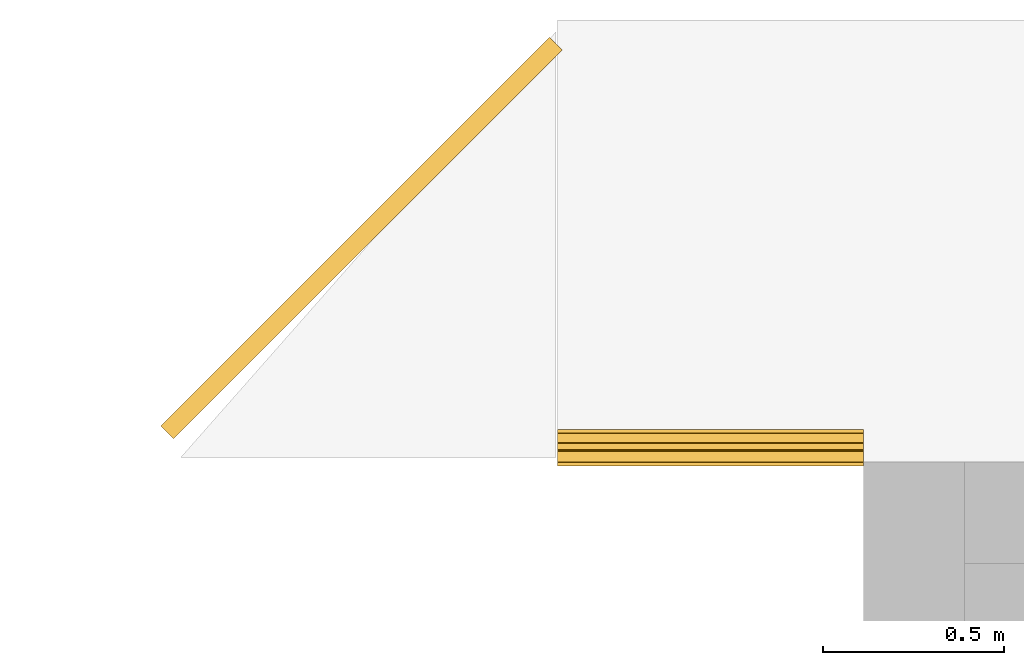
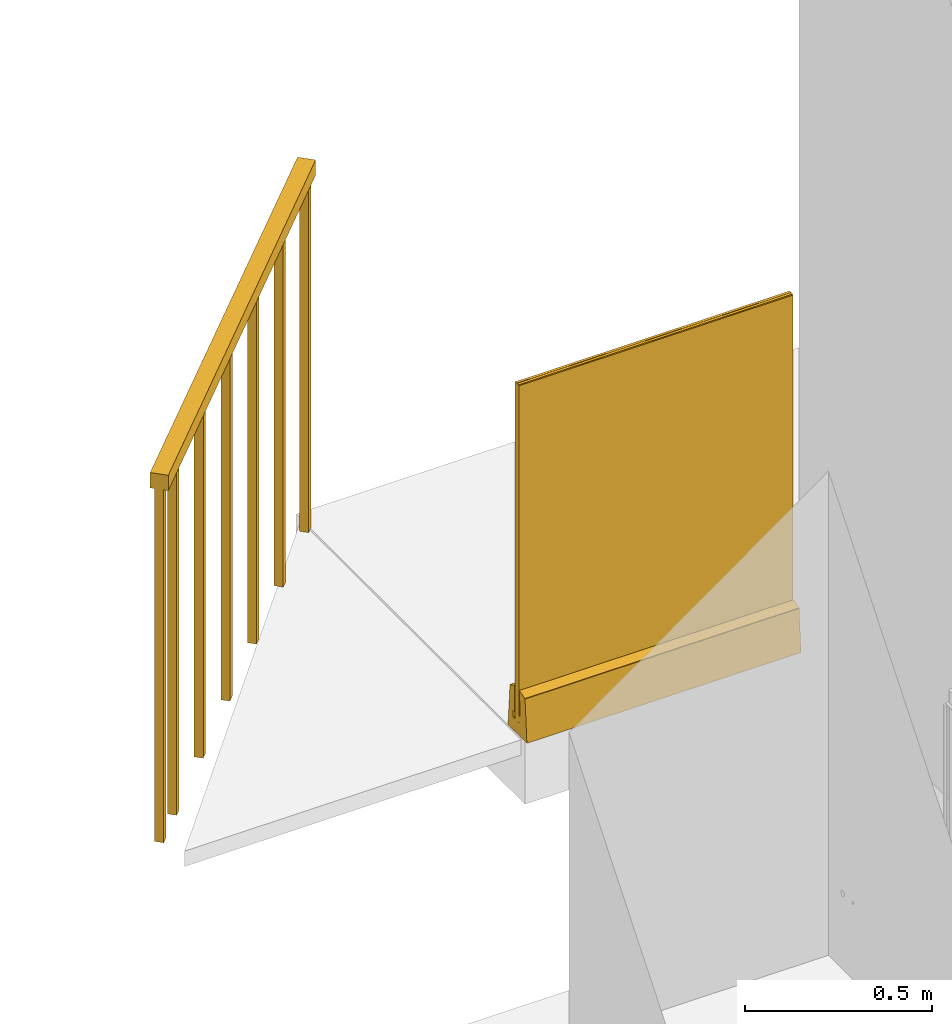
# One storey, part 5 of 22: 2 railings.
"""IFC2X3 building model written with IfcOpenShell, lengths in millimetres."""

import ifcopenshell
import ifcopenshell.guid

model = None  # the IFC model being written
_history = None  # IfcOwnerHistory: only IFC2X3 demands one
_inside = {}  # id of a spatial element -> (the spatial element, [elements in it])
_under = {}  # id of a project, library or spatial element -> (it, [spatial elements below it])
_declared = {}  # id of a project -> (the project, [libraries it declares])
_typed = {}  # id of a type object -> (the type object, [elements of that type])
_made_of = {}  # id of a material, layer set ... -> (it, [elements and type objects made of it])


def new_model(schema):
    """Start an empty IFC model of exactly this schema.

    Asked for "IFC4X3", IfcOpenShell would pick the latest addendum, in which some entities
    have other attributes; the version numbers below select the first issue.
    IFC2X3 requires an IfcOwnerHistory on every rooted entity: one is made here for all.
    """
    global model, _history
    if schema == "IFC4X3":
        model = ifcopenshell.file(schema_version=(4, 3, 0, 0))
    else:
        model = ifcopenshell.file(schema=schema)
    _inside.clear()
    _under.clear()
    _declared.clear()
    _typed.clear()
    _made_of.clear()
    _history = None
    if model.schema == "IFC2X3":
        org = make("IfcOrganization", Name="unknown")
        user = make(
            "IfcPersonAndOrganization",
            ThePerson=make("IfcPerson", FamilyName="unknown"),
            TheOrganization=org,
        )
        app = make(
            "IfcApplication",
            ApplicationDeveloper=org,
            Version="unknown",
            ApplicationFullName="unknown",
            ApplicationIdentifier="unknown",
        )
        _history = make(
            "IfcOwnerHistory",
            OwningUser=user,
            OwningApplication=app,
            ChangeAction="ADDED",
            CreationDate=0,
        )
    return model


def make(cls, **values):
    """One entity of the class cls with the attributes given. An attribute that is None is left unset."""
    return model.create_entity(
        cls, **{name: value for name, value in values.items() if value is not None}
    )


def entity(cls, *values):
    """Any entity or typed value of the class cls, its attributes in the order of the schema. None: left unset."""
    e = model.create_entity(cls)
    for i, value in enumerate(values):
        if value is not None:
            e[i] = value
    return e


def rooted(cls, **values):
    """An entity with a GlobalId (a new one), such as an element, a storey or a relation."""
    return make(cls, GlobalId=ifcopenshell.guid.new(), OwnerHistory=_history, **values)


def si_unit(unit_type, name, prefix=None):
    """IfcSIUnit, for example si_unit("LENGTHUNIT", "METRE", prefix="MILLI")."""
    return make("IfcSIUnit", UnitType=unit_type, Prefix=prefix, Name=name)


def converted_unit(unit_type, name, factor, base, dimensions=None, offset=None):
    """IfcConversionBasedUnit, such as the inch: factor (a typed value) times the base unit."""
    return make(
        "IfcConversionBasedUnit"
        if offset is None
        else "IfcConversionBasedUnitWithOffset",
        ConversionOffset=offset,
        Dimensions=None
        if dimensions is None
        else entity("IfcDimensionalExponents", *dimensions),
        UnitType=unit_type,
        Name=name,
        ConversionFactor=make(
            "IfcMeasureWithUnit", ValueComponent=factor, UnitComponent=base
        ),
    )


def derived_unit(unit_type, elements):
    """IfcDerivedUnit: a product of units, each with its exponent."""
    return make(
        "IfcDerivedUnit",
        Elements=[
            make("IfcDerivedUnitElement", Unit=unit, Exponent=power)
            for unit, power in elements
        ],
        UnitType=unit_type,
    )


def assignment(units):
    """IfcUnitAssignment: the units of a project."""
    return None if units is None else make("IfcUnitAssignment", Units=units)


def point(xyz):
    """IfcCartesianPoint."""
    return None if xyz is None else make("IfcCartesianPoint", Coordinates=xyz)


def direction(xyz):
    """IfcDirection."""
    return None if xyz is None else make("IfcDirection", DirectionRatios=xyz)


def frame(location, z_axis=None, x_axis=None):
    """IfcAxis2Placement3D, a coordinate frame: its origin and axes. An axis left out is left unset."""
    return make(
        "IfcAxis2Placement3D",
        Location=point(location),
        Axis=direction(z_axis),
        RefDirection=direction(x_axis),
    )


def frame_2d(location, x_axis=None):
    """IfcAxis2Placement2D, a coordinate frame in the plane: its origin and x axis."""
    return make(
        "IfcAxis2Placement2D", Location=point(location), RefDirection=direction(x_axis)
    )


def origin():
    """The frame at (0, 0, 0) with its axes left unset."""
    return frame((0.0, 0.0, 0.0))


def origin_2d_with_axis():
    """The frame at (0, 0) in the plane with the x axis (1, 0) written out."""
    return frame_2d((0.0, 0.0), x_axis=(1.0, 0.0))


def place(relative_to, where):
    """IfcLocalPlacement: puts the frame where relative to a parent placement (None: the world)."""
    return make(
        "IfcLocalPlacement", PlacementRelTo=relative_to, RelativePlacement=where
    )


def context(
    kind, dimensions, precision=None, world=None, true_north=None, identifier=None
):
    """IfcGeometricRepresentationContext, for example the 3D "Model" context."""
    return make(
        "IfcGeometricRepresentationContext",
        ContextIdentifier=identifier,
        ContextType=kind,
        CoordinateSpaceDimension=dimensions,
        Precision=precision,
        WorldCoordinateSystem=world,
        TrueNorth=true_north,
    )


def subcontext(parent, identifier, kind, view, scale=None):
    """IfcGeometricRepresentationSubContext, for example "Body" below "Model"."""
    return make(
        "IfcGeometricRepresentationSubContext",
        ContextIdentifier=identifier,
        ContextType=kind,
        ParentContext=parent,
        TargetScale=scale,
        TargetView=view,
    )


def project(units=None, contexts=None):
    """IfcProject with its units and contexts."""
    return rooted(
        "IfcProject",
        Name="project",
        RepresentationContexts=contexts,
        UnitsInContext=assignment(units),
    )


def spatial(cls, under=None, at=None, **own):
    """A site, building, storey or space (cls), placed at a placement, below another one or the project."""
    s = rooted(cls, ObjectPlacement=at, **own)
    if under is not None:
        _under.setdefault(under.id(), (under, []))[1].append(s)
    return s


def polyline(points):
    """IfcPolyline through the points."""
    return make("IfcPolyline", Points=[point(p) for p in points])


def circle_curve(where, radius):
    """IfcCircle in the frame where."""
    return make("IfcCircle", Position=where, Radius=radius)


def parameter(value):
    """IfcParameterValue: where a trimmed curve begins or ends, as a parameter of its basis curve."""
    return model.create_entity("IfcParameterValue", value)


def trimmed(basis, trim1, trim2, sense, master):
    """IfcTrimmedCurve: the piece of a basis curve between two trims."""
    return make(
        "IfcTrimmedCurve",
        BasisCurve=basis,
        Trim1=trim1,
        Trim2=trim2,
        SenseAgreement=sense,
        MasterRepresentation=master,
    )


def segment(curve, same_sense, transition):
    """IfcCompositeCurveSegment."""
    return make(
        "IfcCompositeCurveSegment",
        Transition=transition,
        SameSense=same_sense,
        ParentCurve=curve,
    )


def composite_curve(segments, self_intersect=None):
    """IfcCompositeCurve: segments joined end to end."""
    return make("IfcCompositeCurve", Segments=segments, SelfIntersect=self_intersect)


def profile(cls, at=None, kind="AREA", **sizes):
    """A parametric profile (cls). Its sizes go by their IFC names, for example OverallWidth=200.0."""
    return make(cls, ProfileType=kind, Position=at, **sizes)


def rectangle(**sizes):
    """IfcRectangleProfileDef."""
    return profile("IfcRectangleProfileDef", **sizes)


def outline(outer, holes=None, kind="AREA"):
    """IfcArbitraryClosedProfileDef: a profile drawn as a closed curve; with holes, ...WithVoids."""
    if holes is None:
        return make("IfcArbitraryClosedProfileDef", ProfileType=kind, OuterCurve=outer)
    return make(
        "IfcArbitraryProfileDefWithVoids",
        ProfileType=kind,
        OuterCurve=outer,
        InnerCurves=holes,
    )


def extrude(swept, where, along, depth):
    """IfcExtrudedAreaSolid: the profile swept, set in the frame where, extruded along a direction by depth."""
    return make(
        "IfcExtrudedAreaSolid",
        SweptArea=swept,
        Position=where,
        ExtrudedDirection=direction(along),
        Depth=depth,
    )


def shape(context_of_items, identifier, shape_type, items):
    """IfcShapeRepresentation: the items that make up one representation, for example the "Body"."""
    return make(
        "IfcShapeRepresentation",
        ContextOfItems=context_of_items,
        RepresentationIdentifier=identifier,
        RepresentationType=shape_type,
        Items=items,
    )


def source(mapping_origin, context_of_items, identifier, shape_type, items):
    """IfcRepresentationMap: a shape defined once, which mapped items show again and again."""
    return make(
        "IfcRepresentationMap",
        MappingOrigin=mapping_origin,
        MappedRepresentation=shape(context_of_items, identifier, shape_type, items),
    )


def transform(
    local_origin,
    x_axis=None,
    y_axis=None,
    z_axis=None,
    scale=None,
    scale2=None,
    scale3=None,
    uniform=True,
):
    """IfcCartesianTransformationOperator3D, or its non-uniform kind. x_axis, y_axis, z_axis: its Axis1, 2, 3."""
    if uniform:
        return make(
            "IfcCartesianTransformationOperator3D",
            Axis1=direction(x_axis),
            Axis2=direction(y_axis),
            LocalOrigin=point(local_origin),
            Scale=scale,
            Axis3=direction(z_axis),
        )
    return make(
        "IfcCartesianTransformationOperator3DnonUniform",
        Axis1=direction(x_axis),
        Axis2=direction(y_axis),
        LocalOrigin=point(local_origin),
        Scale=scale,
        Axis3=direction(z_axis),
        Scale2=scale2,
        Scale3=scale3,
    )


def mapped(mapping_source, mapping_target):
    """IfcMappedItem: shows the shape of a source again, moved by a transform."""
    return make(
        "IfcMappedItem", MappingSource=mapping_source, MappingTarget=mapping_target
    )


def material(Name=None, Category=None):
    """IfcMaterial."""
    return make("IfcMaterial", Name=Name, Category=Category)


def material_list(materials):
    """IfcMaterialList."""
    return make("IfcMaterialList", Materials=materials)


def made_of(thing, what):
    """Note that an element or type object is made of a material, layer set ...; save() writes the relation."""
    if what is not None:
        _made_of.setdefault(what.id(), (what, []))[1].append(thing)
    return thing


def type_object(cls, material=None, **own):
    """A type object (cls), such as IfcWallType, which elements share."""
    return made_of(rooted(cls, **own), material)


def type_shapes(of_type, sources):
    """Give a type object the sources (RepresentationMaps) that its elements show as mapped items."""
    of_type.RepresentationMaps = sources


def element(
    cls,
    number,
    at=None,
    inside=None,
    cuts=None,
    type_object=None,
    material=None,
    context=None,
    identifier="Body",
    shape_type=None,
    held_by="IfcProductDefinitionShape",
    body=None,
    shapes=None,
    **own,
):
    """One element of the class cls, such as IfcWall. Its Tag is "e" and its number.

    at: its placement. inside: the storey or other place that contains it. cuts: it is an
    opening in that element (IfcRelVoidsElement). A single representation is given by context,
    identifier, shape_type and body (its items); several are given by shapes. held_by: the class
    of the entity that holds the representations. save() writes the other relations.
    """
    e = rooted(cls, Tag="e%d" % number, ObjectPlacement=at, **own)
    if body is not None:
        shapes = [shape(context, identifier, shape_type, body)]
    if shapes is not None:
        e.Representation = make(held_by, Representations=shapes)
    if inside is not None:
        _inside.setdefault(inside.id(), (inside, []))[1].append(e)
    if cuts is not None:
        rooted(
            "IfcRelVoidsElement", RelatingBuildingElement=cuts, RelatedOpeningElement=e
        )
    if type_object is not None:
        _typed.setdefault(type_object.id(), (type_object, []))[1].append(e)
    return made_of(e, material)


def aggregate(whole, parts):
    """IfcRelAggregates: a whole, such as a stair, and the parts it consists of."""
    return rooted("IfcRelAggregates", RelatingObject=whole, RelatedObjects=parts)


def save(model, path):
    """Write the relations noted so far, then the file.

    IfcRelAggregates (storeys below a building ...), IfcRelContainedInSpatialStructure (elements
    in a storey), IfcRelDefinesByType, IfcRelAssociatesMaterial and IfcRelDeclares: one each for
    every whole, place, type object, material and project.
    """
    for whole, parts in _under.values():
        aggregate(whole, parts)
    for where, things in _inside.values():
        rooted(
            "IfcRelContainedInSpatialStructure",
            RelatedElements=things,
            RelatingStructure=where,
        )
    for kind, things in _typed.values():
        rooted("IfcRelDefinesByType", RelatedObjects=things, RelatingType=kind)
    for what, things in _made_of.values():
        rooted("IfcRelAssociatesMaterial", RelatedObjects=things, RelatingMaterial=what)
    for by, libraries in _declared.values():
        rooted("IfcRelDeclares", RelatingContext=by, RelatedDefinitions=libraries)
    model.write(path)


model = new_model("IFC2X3")

# Units and contexts
model_context = context("Model", 3, precision=0.01, world=origin(), true_north=direction((6.123031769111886e-17, 1.0)))
body_context = subcontext(model_context, "Body", "Model", "MODEL_VIEW")
ifc_project = project(units=[si_unit("LENGTHUNIT", "METRE", prefix="MILLI"), si_unit("AREAUNIT", "SQUARE_METRE"), si_unit("VOLUMEUNIT", "CUBIC_METRE"), converted_unit("PLANEANGLEUNIT", "DEGREE", entity("IfcRatioMeasure", 0.017453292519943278), si_unit("PLANEANGLEUNIT", "RADIAN"), dimensions=[0, 0, 0, 0, 0, 0, 0]), si_unit("MASSUNIT", "GRAM", prefix="KILO"), derived_unit("MASSDENSITYUNIT", [(si_unit("MASSUNIT", "GRAM", prefix="KILO"), 1), (si_unit("LENGTHUNIT", "METRE"), -3)]), derived_unit("MOMENTOFINERTIAUNIT", [(si_unit("LENGTHUNIT", "METRE"), 4)]), si_unit("TIMEUNIT", "SECOND"), si_unit("FREQUENCYUNIT", "HERTZ"), si_unit("THERMODYNAMICTEMPERATUREUNIT", "DEGREE_CELSIUS"), derived_unit("THERMALTRANSMITTANCEUNIT", [(si_unit("MASSUNIT", "GRAM", prefix="KILO"), 1), (si_unit("THERMODYNAMICTEMPERATUREUNIT", "KELVIN"), -1), (si_unit("TIMEUNIT", "SECOND"), -3)]), derived_unit("VOLUMETRICFLOWRATEUNIT", [(si_unit("LENGTHUNIT", "METRE"), 3), (si_unit("TIMEUNIT", "SECOND"), -1)]), derived_unit("MASSFLOWRATEUNIT", [(si_unit("MASSUNIT", "GRAM", prefix="KILO"), 1), (si_unit("TIMEUNIT", "SECOND"), -1)]), derived_unit("ROTATIONALFREQUENCYUNIT", [(si_unit("TIMEUNIT", "SECOND"), -1)]), si_unit("ELECTRICCURRENTUNIT", "AMPERE"), si_unit("ELECTRICVOLTAGEUNIT", "VOLT"), si_unit("POWERUNIT", "WATT"), si_unit("FORCEUNIT", "NEWTON", prefix="KILO"), si_unit("ILLUMINANCEUNIT", "LUX"), si_unit("LUMINOUSFLUXUNIT", "LUMEN"), si_unit("LUMINOUSINTENSITYUNIT", "CANDELA"), derived_unit("USERDEFINED", [(si_unit("MASSUNIT", "GRAM", prefix="KILO"), -1), (si_unit("LENGTHUNIT", "METRE"), -2), (si_unit("TIMEUNIT", "SECOND"), 3), (si_unit("LUMINOUSFLUXUNIT", "LUMEN"), 1)]), derived_unit("SOUNDPOWERUNIT", [(si_unit("MASSUNIT", "GRAM", prefix="KILO"), 1), (si_unit("LENGTHUNIT", "METRE"), 2), (si_unit("TIMEUNIT", "SECOND"), -3)]), derived_unit("SOUNDPRESSUREUNIT", [(si_unit("MASSUNIT", "GRAM", prefix="KILO"), 1), (si_unit("LENGTHUNIT", "METRE"), -1), (si_unit("TIMEUNIT", "SECOND"), -2)]), derived_unit("LINEARVELOCITYUNIT", [(si_unit("LENGTHUNIT", "METRE"), 1), (si_unit("TIMEUNIT", "SECOND"), -1)]), si_unit("PRESSUREUNIT", "PASCAL"), derived_unit("USERDEFINED", [(si_unit("LENGTHUNIT", "METRE"), -2), (si_unit("MASSUNIT", "GRAM", prefix="KILO"), 1), (si_unit("TIMEUNIT", "SECOND"), -2)]), derived_unit("LINEARFORCEUNIT", [(si_unit("MASSUNIT", "GRAM", prefix="KILO"), 1), (si_unit("LENGTHUNIT", "METRE"), 1), (si_unit("TIMEUNIT", "SECOND"), -2), (si_unit("LENGTHUNIT", "METRE"), -1)]), derived_unit("PLANARFORCEUNIT", [(si_unit("MASSUNIT", "GRAM", prefix="KILO"), 1), (si_unit("LENGTHUNIT", "METRE"), 1), (si_unit("TIMEUNIT", "SECOND"), -2), (si_unit("LENGTHUNIT", "METRE"), -2)])], contexts=[model_context])

# Site, building, storey
site_placement = place(None, origin())
site = spatial("IfcSite", under=ifc_project, at=site_placement, Name="Default", CompositionType="ELEMENT")
building_placement = place(site_placement, origin())
building = spatial("IfcBuilding", under=site, at=building_placement, CompositionType="ELEMENT")
storey_placement = place(building_placement, frame((0.0, 0.0, 3300.0)))
storey = spatial("IfcBuildingStorey", under=building, at=storey_placement, Name="Level 2", CompositionType="ELEMENT", Elevation=3299.99999999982)

# Railings
ifc_material_1 = material(Name="Metal Deck")
ifc_material_list_1 = material_list([ifc_material_1, ifc_material_1, ifc_material_1, ifc_material_1, ifc_material_1, ifc_material_1, ifc_material_1, ifc_material_1])
ifc_material_list_2 = material_list([ifc_material_1, ifc_material_1, ifc_material_1, ifc_material_1, ifc_material_1, ifc_material_1, ifc_material_1, ifc_material_1])
railing_type_1 = type_object("IfcRailingType", Name="Railing:My railing 120 mm:My railing 120 mm : Railing:My railing 120 mm", PredefinedType="NOTDEFINED", material=ifc_material_list_2)
shared_shape_1 = source(origin(), body_context, "Body", "SweptSolid", [
    extrude(rectangle(XDim=25.000000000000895, YDim=25.000000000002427, at=frame_2d((3.82804898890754e-13, 3.82804898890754e-13), x_axis=(1.0, 0.0))), frame((-11248.078573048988, 5475.775539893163, 3300.0), z_axis=(0.0, 0.0, 1.0), x_axis=(0.7071067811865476, 0.7071067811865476, 0.0)), (0.0, 0.0, 1.0), 1149.9999999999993),
    extrude(rectangle(XDim=25.00000000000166, YDim=25.000000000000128, at=origin_2d_with_axis()), frame((-11053.624208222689, 5670.229904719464, 3300.0), z_axis=(0.0, 0.0, 1.0), x_axis=(0.7071067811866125, 0.7071067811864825, 0.0)), (0.0, 0.0, 1.0), 1150.0),
    extrude(rectangle(XDim=24.999999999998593, YDim=24.999999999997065, at=frame_2d((-1.531219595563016e-12, 1.531219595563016e-12), x_axis=(1.0, 0.0))), frame((-10859.169843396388, 5864.684269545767, 3300.0), z_axis=(0.0, 0.0, 1.0), x_axis=(0.7071067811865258, 0.7071067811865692, 0.0)), (0.0, 0.0, 1.0), 1150.0),
    extrude(rectangle(XDim=24.999999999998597, YDim=25.000000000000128, at=origin_2d_with_axis()), frame((-10664.715478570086, 6059.138634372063, 3300.0), z_axis=(0.0, 0.0, 1.0), x_axis=(0.7071067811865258, 0.7071067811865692, 0.0)), (0.0, 0.0, 1.0), 1150.0),
    extrude(rectangle(XDim=25.000000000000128, YDim=24.999999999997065, at=origin_2d_with_axis()), frame((-10470.261113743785, 6253.592999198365, 3300.0), z_axis=(0.0, 0.0, 1.0), x_axis=(0.7071067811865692, 0.7071067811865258, 0.0)), (0.0, 0.0, 1.0), 1150.0),
    extrude(rectangle(XDim=25.000000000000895, YDim=25.000000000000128, at=frame_2d((3.82804898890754e-13, 3.82804898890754e-13), x_axis=(1.0, 0.0))), frame((-11341.770221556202, 5382.083891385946, 3300.0), z_axis=(0.0, 0.0, 1.0), x_axis=(0.7071067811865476, 0.7071067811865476, 0.0)), (0.0, 0.0, 1.0), 1149.9999999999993),
    extrude(rectangle(XDim=25.000000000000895, YDim=24.999999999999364, at=frame_2d((3.82804898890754e-13, 3.82804898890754e-13), x_axis=(1.0, 0.0))), frame((-10284.645583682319, 6439.208529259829, 3300.0), z_axis=(0.0, 0.0, 1.0), x_axis=(0.7071067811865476, 0.7071067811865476, 0.0)), (0.0, 0.0, 1.0), 1149.9999999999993),
    extrude(rectangle(XDim=1520.0000000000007, YDim=49.99999999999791, at=frame_2d((4.547473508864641e-13, 3.7125857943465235e-13), x_axis=(1.0, 0.0))), frame((-10813.207902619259, 5910.646210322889, 4450.0), z_axis=(0.0, 0.0, 1.0), x_axis=(0.7071067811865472, 0.7071067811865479, 0.0)), (0.0, 0.0, 1.0), 49.99999999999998),
])
type_shapes(railing_type_1, [shared_shape_1])
railing_1_placement = place(storey_placement, frame((0.0, 0.0, -3300.0)))
element("IfcRailing", 1, at=railing_1_placement, inside=storey, type_object=railing_type_1, material=ifc_material_list_1, Name="Railing:My railing 120 mm:My railing 120 mm : Railing:My railing 120 mm:My railing 120 mm:My railing 120 mm : Railing:My railing 120 mm : Railing:My railing 120 mm:My railing 120 mm : Railing:My railing 120 mm", ObjectType="Railing:My railing 120 mm:My railing 120 mm : Railing:My railing 120 mm:My railing 120 mm:My railing 120 mm : Railing:My railing 120 mm : Railing:My railing 120 mm:My railing 120 mm : Railing:My railing 120 mm", PredefinedType="NOTDEFINED", context=body_context, shape_type="MappedRepresentation", body=[
    mapped(shared_shape_1, transform((0.0, 0.0, 0.0), scale=1.0)),
])
ifc_material_2 = material(Name="Glass, Clear Glazing")
ifc_material_3 = material(Name="Aluminum 6061-O")
ifc_material_list_3 = material_list([ifc_material_2, ifc_material_3])
ifc_material_list_4 = material_list([ifc_material_2, ifc_material_3])
railing_type_2 = type_object("IfcRailingType", Name="Railing:Construction_Railing_Faraone_NINFA-5_Tempered-Glass 10+10:Construction_Railing_Faraone_NINFA-5_Tempered-Glass 10+10 : Railing:Construction_Railing_Faraone_NINFA-5_Tempered-Glass 10+10", PredefinedType="NOTDEFINED", material=ifc_material_list_4)
shared_shape_2 = source(origin(), body_context, "Body", "SweptSolid", [
    extrude(outline(polyline([(-8.500000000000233, -549.8333333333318), (-0.5000000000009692, -549.8333333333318), (-0.5000000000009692, 549.1666666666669), (0.49999999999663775, 549.1666666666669), (0.4999999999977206, -549.8333333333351), (8.499999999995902, -549.8333333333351), (10.499999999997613, -547.8333333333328), (10.499999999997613, 548.1666666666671), (8.499999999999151, 550.1666666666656), (-8.500000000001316, 550.1666666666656), (-10.499999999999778, 548.1666666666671), (-10.499999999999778, -547.8333333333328), (-8.500000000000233, -549.8333333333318)])), frame((-10270.60690337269, 5334.261513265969, 3891.166666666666), z_axis=(1.0, 0.0, 0.0), x_axis=(0.0, -1.0, 0.0)), (0.0, 0.0, 1.0), 845.2703799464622),
    extrude(outline(composite_curve([segment(polyline([(-15.381194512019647, 68.81459044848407), (-16.881194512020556, 70.81459044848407)]), True, "CONTINUOUS"), segment(polyline([(-16.881194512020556, 70.81459044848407), (-50.739661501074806, 70.81459044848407)]), True, "CONTINUOUS"), segment(polyline([(-50.739661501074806, 70.81459044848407), (-40.985894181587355, -67.01569033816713)]), True, "CONTINUOUS"), segment(trimmed(circle_curve(frame_2d((-39.21806338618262, -66.89058713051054), x_axis=(1.0, 0.0)), 1.77225182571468), [parameter(184.0478739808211)], [parameter(238.91574410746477)], True, "PARAMETER"), True, "CONTINUOUS"), segment(polyline([(-40.13307349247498, -68.40835952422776), (-10.681194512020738, -77.18540955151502)]), True, "CONTINUOUS"), segment(polyline([(-10.681194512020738, -77.18540955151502), (-10.681194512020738, -43.18540955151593)]), True, "CONTINUOUS"), segment(polyline([(-10.681194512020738, -43.18540955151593), (-14.681194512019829, -43.18540955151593)]), True, "CONTINUOUS"), segment(polyline([(-14.681194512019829, -43.18540955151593), (-14.681194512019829, 6.8145904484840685)]), True, "CONTINUOUS"), segment(polyline([(-14.681194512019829, 6.8145904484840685), (-8.681194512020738, 6.8145904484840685)]), True, "CONTINUOUS"), segment(polyline([(-8.681194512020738, 6.8145904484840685), (-8.681194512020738, 29.81459044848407)]), True, "CONTINUOUS"), segment(polyline([(-8.681194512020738, 29.81459044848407), (22.31880548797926, 29.81459044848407)]), True, "CONTINUOUS"), segment(polyline([(22.31880548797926, 29.81459044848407), (22.31880548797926, 7.8145904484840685)]), True, "CONTINUOUS"), segment(polyline([(22.31880548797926, 7.8145904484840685), (14.318805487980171, 7.8145904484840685)]), True, "CONTINUOUS"), segment(polyline([(14.318805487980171, 7.8145904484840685), (14.318805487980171, -77.18540955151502)]), True, "CONTINUOUS"), segment(polyline([(14.318805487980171, -77.18540955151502), (38.529548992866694, -67.50111214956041)]), True, "CONTINUOUS"), segment(trimmed(circle_curve(frame_2d((37.63580680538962, -65.97071957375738), x_axis=(-1.0, 0.0)), 1.77225182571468), [parameter(120.28473078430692)], [parameter(175.54811335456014)], True, "PARAMETER"), True, "CONTINUOUS"), segment(polyline([(39.4027115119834, -66.10828516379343), (50.06309183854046, 70.81459044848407)]), True, "CONTINUOUS"), segment(polyline([(50.06309183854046, 70.81459044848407), (16.218805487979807, 70.81459044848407)]), True, "CONTINUOUS"), segment(polyline([(16.218805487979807, 70.81459044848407), (14.718805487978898, 68.81459044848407)]), True, "CONTINUOUS"), segment(polyline([(14.718805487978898, 68.81459044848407), (-15.381194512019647, 68.81459044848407)]), True, "CONTINUOUS")], self_intersect=False)), frame((-10270.606903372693, 5331.492707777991, 3370.8145904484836), z_axis=(-1.0, 0.0, 0.0), x_axis=(0.0, 1.0, 0.0)), (0.0, 0.0, -1.0), 845.2703799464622),
])
type_shapes(railing_type_2, [shared_shape_2])
railing_2_placement = place(storey_placement, frame((0.0, 0.0, -3300.0)))
element("IfcRailing", 2, at=railing_2_placement, inside=storey, type_object=railing_type_2, material=ifc_material_list_3, PredefinedType="NOTDEFINED", context=body_context, shape_type="MappedRepresentation", body=[
    mapped(shared_shape_2, transform((0.0, 0.0, 0.0), scale=1.0)),
])

save(model, "model.ifc")
